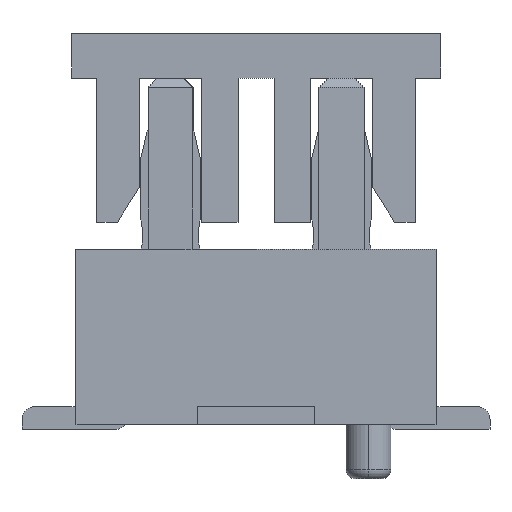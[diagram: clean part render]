
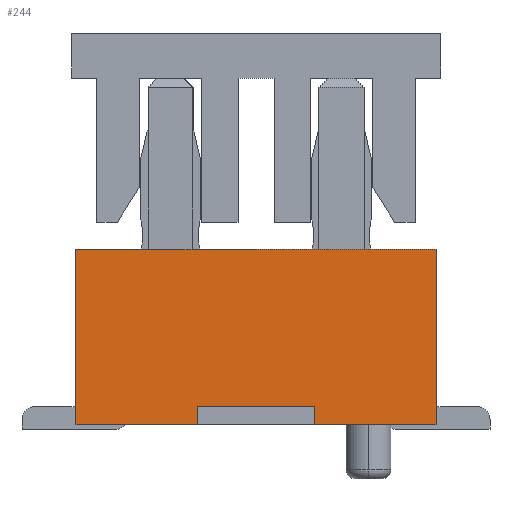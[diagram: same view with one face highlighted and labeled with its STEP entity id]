
A CAD part, left-side view. The second image highlights one B-rep face of the part: STEP entity #244.
In plain terms, the highlighted planar face has unit normal (-1, 0, 0).
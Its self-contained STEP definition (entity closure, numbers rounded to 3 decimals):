
#173=CARTESIAN_POINT('Axis2P3D Location',(-4.85,0.,0.)) ;
#178=CARTESIAN_POINT('Line Origine',(-4.85,0.65,0.1)) ;
#182=CARTESIAN_POINT('Vertex',(-4.85,0.65,0.)) ;
#184=CARTESIAN_POINT('Vertex',(-4.85,0.65,0.2)) ;
#187=CARTESIAN_POINT('Line Origine',(-4.85,0.,0.2)) ;
#191=CARTESIAN_POINT('Vertex',(-4.85,-0.65,0.2)) ;
#194=CARTESIAN_POINT('Line Origine',(-4.85,-0.65,0.1)) ;
#198=CARTESIAN_POINT('Vertex',(-4.85,-0.65,0.)) ;
#201=CARTESIAN_POINT('Line Origine',(-4.85,-1.325,0.)) ;
#205=CARTESIAN_POINT('Vertex',(-4.85,-2.,0.)) ;
#208=CARTESIAN_POINT('Line Origine',(-4.85,-2.,0.975)) ;
#212=CARTESIAN_POINT('Vertex',(-4.85,-2.,1.95)) ;
#215=CARTESIAN_POINT('Line Origine',(-4.85,0.,1.95)) ;
#219=CARTESIAN_POINT('Vertex',(-4.85,2.,1.95)) ;
#222=CARTESIAN_POINT('Line Origine',(-4.85,2.,0.975)) ;
#226=CARTESIAN_POINT('Vertex',(-4.85,2.,0.)) ;
#229=CARTESIAN_POINT('Line Origine',(-4.85,1.325,0.)) ;
#174=DIRECTION('Axis2P3D Direction',(1.,0.,0.)) ;
#175=DIRECTION('Axis2P3D XDirection',(0.,1.,0.)) ;
#179=DIRECTION('Vector Direction',(0.,0.,1.)) ;
#188=DIRECTION('Vector Direction',(0.,1.,0.)) ;
#195=DIRECTION('Vector Direction',(0.,0.,1.)) ;
#202=DIRECTION('Vector Direction',(0.,1.,0.)) ;
#209=DIRECTION('Vector Direction',(0.,0.,-1.)) ;
#216=DIRECTION('Vector Direction',(0.,1.,0.)) ;
#223=DIRECTION('Vector Direction',(0.,0.,-1.)) ;
#230=DIRECTION('Vector Direction',(0.,1.,0.)) ;
#176=AXIS2_PLACEMENT_3D('Plane Axis2P3D',#173,#174,#175) ;
#235=ORIENTED_EDGE('',*,*,#186,.T.) ;
#236=ORIENTED_EDGE('',*,*,#193,.F.) ;
#237=ORIENTED_EDGE('',*,*,#200,.F.) ;
#238=ORIENTED_EDGE('',*,*,#207,.F.) ;
#239=ORIENTED_EDGE('',*,*,#214,.F.) ;
#240=ORIENTED_EDGE('',*,*,#221,.F.) ;
#241=ORIENTED_EDGE('',*,*,#228,.F.) ;
#242=ORIENTED_EDGE('',*,*,#233,.F.) ;
#180=VECTOR('Line Direction',#179,1.) ;
#189=VECTOR('Line Direction',#188,1.) ;
#196=VECTOR('Line Direction',#195,1.) ;
#203=VECTOR('Line Direction',#202,1.) ;
#210=VECTOR('Line Direction',#209,1.) ;
#217=VECTOR('Line Direction',#216,1.) ;
#224=VECTOR('Line Direction',#223,1.) ;
#231=VECTOR('Line Direction',#230,1.) ;
#244=ADVANCED_FACE('\X2\96F64EF651E04F554F53\X0\',(#243),#177,.F.) ;
#186=EDGE_CURVE('',#183,#185,#181,.T.) ;
#193=EDGE_CURVE('',#192,#185,#190,.T.) ;
#200=EDGE_CURVE('',#199,#192,#197,.T.) ;
#207=EDGE_CURVE('',#206,#199,#204,.T.) ;
#214=EDGE_CURVE('',#213,#206,#211,.T.) ;
#221=EDGE_CURVE('',#220,#213,#218,.F.) ;
#228=EDGE_CURVE('',#227,#220,#225,.F.) ;
#233=EDGE_CURVE('',#183,#227,#232,.T.) ;
#234=EDGE_LOOP('',(#235,#236,#237,#238,#239,#240,#241,#242)) ;
#243=FACE_OUTER_BOUND('',#234,.T.) ;
#181=LINE('Line',#178,#180) ;
#190=LINE('Line',#187,#189) ;
#197=LINE('Line',#194,#196) ;
#204=LINE('Line',#201,#203) ;
#211=LINE('Line',#208,#210) ;
#218=LINE('Line',#215,#217) ;
#225=LINE('Line',#222,#224) ;
#232=LINE('Line',#229,#231) ;
#177=PLANE('Plane',#176) ;
#183=VERTEX_POINT('',#182) ;
#185=VERTEX_POINT('',#184) ;
#192=VERTEX_POINT('',#191) ;
#199=VERTEX_POINT('',#198) ;
#206=VERTEX_POINT('',#205) ;
#213=VERTEX_POINT('',#212) ;
#220=VERTEX_POINT('',#219) ;
#227=VERTEX_POINT('',#226) ;
